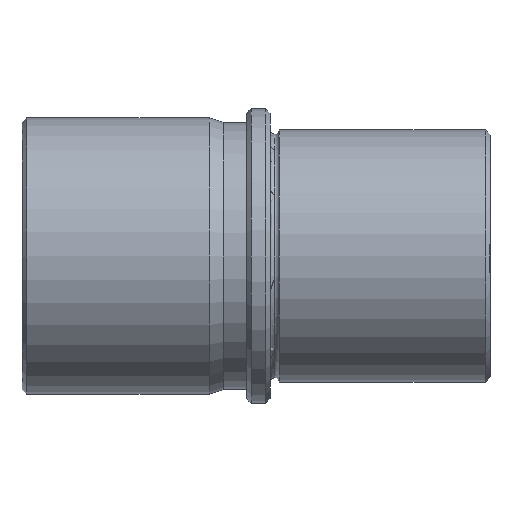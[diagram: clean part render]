
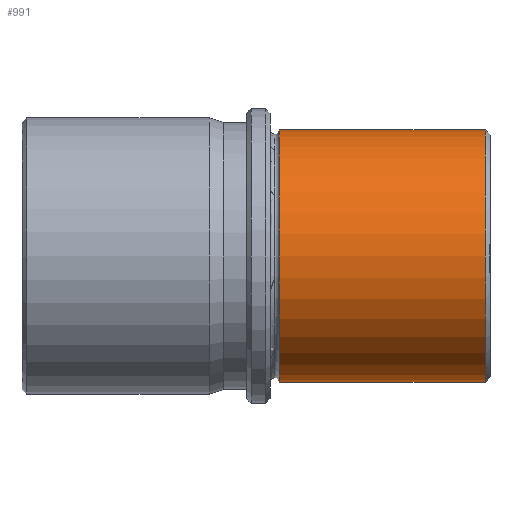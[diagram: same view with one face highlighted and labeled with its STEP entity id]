
A CAD part, left-side view. The second image highlights one B-rep face of the part: STEP entity #991.
In plain terms, the highlighted cylindrical face has radius 27 mm (diameter 54 mm), a partial arc.
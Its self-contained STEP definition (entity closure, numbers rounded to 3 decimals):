
#803=CARTESIAN_POINT('Vertex',(0.,1.,27.)) ;
#810=CARTESIAN_POINT('Vertex',(0.,1.,-27.)) ;
#839=CARTESIAN_POINT('Axis2P3D Location',(0.,1.,0.)) ;
#843=CARTESIAN_POINT('Vertex',(-27.,1.,0.)) ;
#846=CARTESIAN_POINT('Axis2P3D Location',(0.,1.,0.)) ;
#931=CARTESIAN_POINT('Line Origine',(0.,0.,-27.)) ;
#935=CARTESIAN_POINT('Vertex',(0.,45.,-27.)) ;
#949=CARTESIAN_POINT('Vertex',(0.,45.,27.)) ;
#952=CARTESIAN_POINT('Line Origine',(0.,0.,27.)) ;
#966=CARTESIAN_POINT('Axis2P3D Location',(0.,0.,0.)) ;
#971=CARTESIAN_POINT('Axis2P3D Location',(0.,45.,0.)) ;
#975=CARTESIAN_POINT('Vertex',(-27.,45.,0.)) ;
#978=CARTESIAN_POINT('Axis2P3D Location',(0.,45.,0.)) ;
#840=DIRECTION('Axis2P3D Direction',(-0.,1.,0.)) ;
#847=DIRECTION('Axis2P3D Direction',(-0.,1.,0.)) ;
#932=DIRECTION('Vector Direction',(0.,1.,0.)) ;
#953=DIRECTION('Vector Direction',(0.,1.,0.)) ;
#967=DIRECTION('Axis2P3D Direction',(0.,1.,0.)) ;
#968=DIRECTION('Axis2P3D XDirection',(0.,0.,-1.)) ;
#972=DIRECTION('Axis2P3D Direction',(0.,1.,0.)) ;
#979=DIRECTION('Axis2P3D Direction',(0.,1.,0.)) ;
#841=AXIS2_PLACEMENT_3D('Circle Axis2P3D',#839,#840,$) ;
#848=AXIS2_PLACEMENT_3D('Circle Axis2P3D',#846,#847,$) ;
#969=AXIS2_PLACEMENT_3D('Cylinder Axis2P3D',#966,#967,#968) ;
#973=AXIS2_PLACEMENT_3D('Circle Axis2P3D',#971,#972,$) ;
#980=AXIS2_PLACEMENT_3D('Circle Axis2P3D',#978,#979,$) ;
#984=ORIENTED_EDGE('',*,*,#956,.T.) ;
#985=ORIENTED_EDGE('',*,*,#977,.T.) ;
#986=ORIENTED_EDGE('',*,*,#982,.T.) ;
#987=ORIENTED_EDGE('',*,*,#937,.T.) ;
#988=ORIENTED_EDGE('',*,*,#850,.F.) ;
#989=ORIENTED_EDGE('',*,*,#845,.F.) ;
#933=VECTOR('Line Direction',#932,1.) ;
#954=VECTOR('Line Direction',#953,1.) ;
#991=ADVANCED_FACE('CF 450 40x100',(#990),#970,.T.) ;
#842=CIRCLE('generated circle',#841,27.) ;
#849=CIRCLE('generated circle',#848,27.) ;
#974=CIRCLE('generated circle',#973,27.) ;
#981=CIRCLE('generated circle',#980,27.) ;
#970=CYLINDRICAL_SURFACE('generated cylinder',#969,27.) ;
#845=EDGE_CURVE('',#804,#844,#842,.F.) ;
#850=EDGE_CURVE('',#844,#811,#849,.F.) ;
#937=EDGE_CURVE('',#936,#811,#934,.F.) ;
#956=EDGE_CURVE('',#804,#950,#955,.T.) ;
#977=EDGE_CURVE('',#950,#976,#974,.F.) ;
#982=EDGE_CURVE('',#976,#936,#981,.F.) ;
#983=EDGE_LOOP('',(#984,#985,#986,#987,#988,#989)) ;
#990=FACE_OUTER_BOUND('',#983,.T.) ;
#934=LINE('Line',#931,#933) ;
#955=LINE('Line',#952,#954) ;
#804=VERTEX_POINT('',#803) ;
#811=VERTEX_POINT('',#810) ;
#844=VERTEX_POINT('',#843) ;
#936=VERTEX_POINT('',#935) ;
#950=VERTEX_POINT('',#949) ;
#976=VERTEX_POINT('',#975) ;
